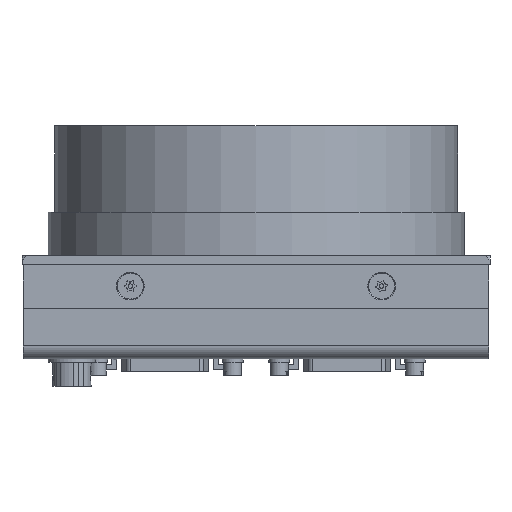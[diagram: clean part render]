
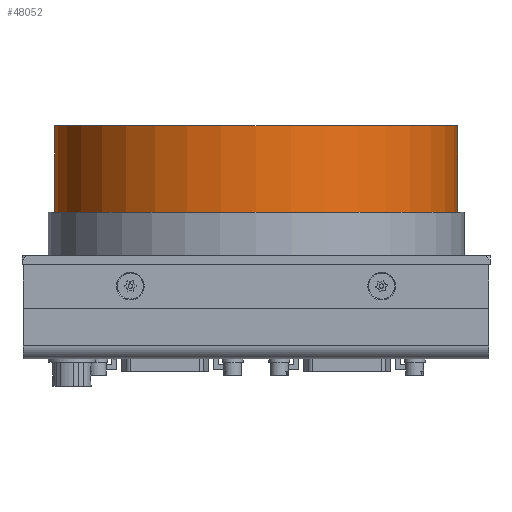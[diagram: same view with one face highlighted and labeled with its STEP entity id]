
A CAD part, front view. The second image highlights one B-rep face of the part: STEP entity #48052.
In plain terms, the highlighted cylindrical face has radius 46.5 mm (diameter 93 mm), a full revolution.
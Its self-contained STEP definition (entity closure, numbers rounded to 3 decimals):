
#3035 = CIRCLE ( 'NONE', #301903, 46.5 ) ;
#14030 = EDGE_LOOP ( 'NONE', ( #324680 ) ) ;
#48052 = ADVANCED_FACE ( 'NONE', ( #233136, #162591 ), #87058, .T. ) ;
#54453 = CARTESIAN_POINT ( 'NONE',  ( 46.5, 0., 0. ) ) ;
#58922 = DIRECTION ( 'NONE',  ( -1., 0., 0. ) ) ;
#87058 = CYLINDRICAL_SURFACE ( 'NONE', #283758, 46.5 ) ;
#87149 = DIRECTION ( 'NONE',  ( 1., 0., 0. ) ) ;
#115039 = VERTEX_POINT ( 'NONE', #54453 ) ;
#115983 = ORIENTED_EDGE ( 'NONE', *, *, #188618, .F. ) ;
#125686 = DIRECTION ( 'NONE',  ( 0., 0., 1. ) ) ;
#162591 = FACE_OUTER_BOUND ( 'NONE', #198076, .T. ) ;
#177942 = CARTESIAN_POINT ( 'NONE',  ( 0., 0., 0. ) ) ;
#185696 = VERTEX_POINT ( 'NONE', #271319 ) ;
#188618 = EDGE_CURVE ( 'NONE', #115039, #115039, #3035, .T. ) ;
#196825 = AXIS2_PLACEMENT_3D ( 'NONE', #390271, #269410, #58922 ) ;
#198076 = EDGE_LOOP ( 'NONE', ( #115983 ) ) ;
#212119 = EDGE_CURVE ( 'NONE', #185696, #185696, #219443, .T. ) ;
#219443 = CIRCLE ( 'NONE', #196825, 46.5 ) ;
#233136 = FACE_OUTER_BOUND ( 'NONE', #14030, .T. ) ;
#269410 = DIRECTION ( 'NONE',  ( 0., 0., 1. ) ) ;
#271319 = CARTESIAN_POINT ( 'NONE',  ( -46.5, 0., -20. ) ) ;
#283758 = AXIS2_PLACEMENT_3D ( 'NONE', #305794, #125686, #336073 ) ;
#301903 = AXIS2_PLACEMENT_3D ( 'NONE', #177942, #388228, #87149 ) ;
#305794 = CARTESIAN_POINT ( 'NONE',  ( 0., 0., -20. ) ) ;
#324680 = ORIENTED_EDGE ( 'NONE', *, *, #212119, .T. ) ;
#336073 = DIRECTION ( 'NONE',  ( 1., 0., 0. ) ) ;
#388228 = DIRECTION ( 'NONE',  ( 0., 0., 1. ) ) ;
#390271 = CARTESIAN_POINT ( 'NONE',  ( 0., 0., -20. ) ) ;
